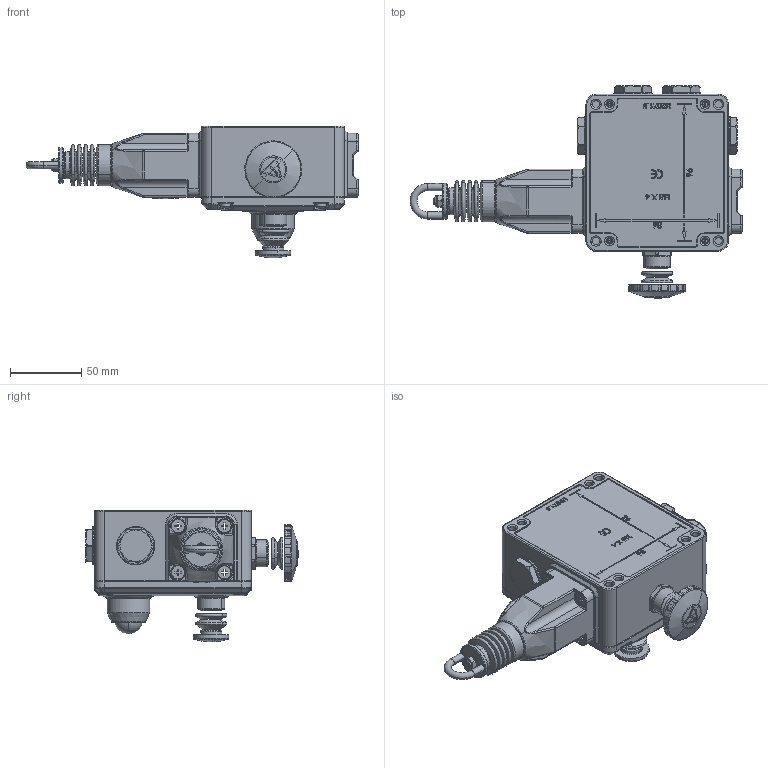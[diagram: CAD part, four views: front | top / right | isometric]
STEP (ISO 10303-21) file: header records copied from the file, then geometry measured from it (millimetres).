
FILE_DESCRIPTION (( 'STEP AP203' ), '1' );
FILE_NAME ('141-GLHR (with LED & E-Stop) step format.STEP', '2012-11-16T16:25:44', ( '' ), ( '' ), 'SwSTEP 2.0', 'SolidWorks 2010', '' );
FILE_SCHEMA (( 'CONFIG_CONTROL_DESIGN' ));
Products named in the file (1): 141-GLHR (with LED & E-Stop) step format
Bounding box: 233 x 149.01 x 92.5 mm (x, y, z)
Surface area: 84821.5 mm2 (no closed solid volume)
Topology: 0 solids, 61 shells, 1329 faces, 4633 edges, 3173 vertices
Faces by surface type: cylinder 424, plane 378, torus 232, bspline 177, cone 87, sphere 31
Entity records: 62907 total; most frequent: CARTESIAN_POINT 25738, DIRECTION 7404, ORIENTED_EDGE 7189, EDGE_CURVE 4596, VERTEX_POINT 3171, AXIS2_PLACEMENT_3D 2722, VECTOR 1960, LINE 1960
